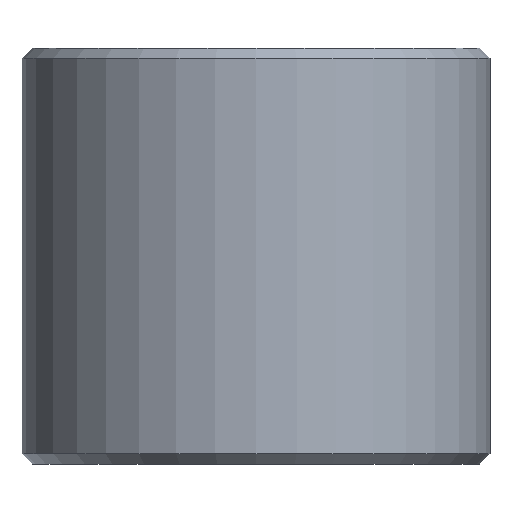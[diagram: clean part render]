
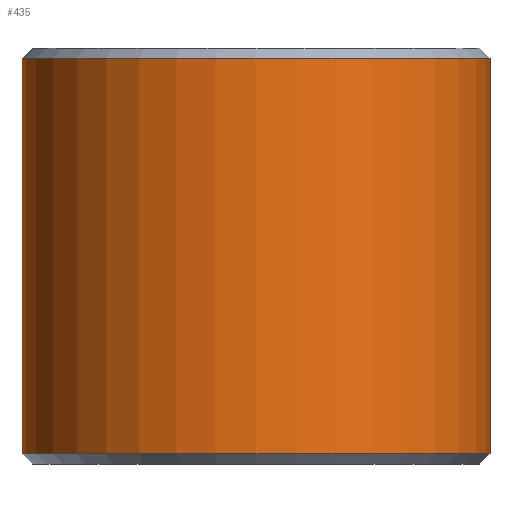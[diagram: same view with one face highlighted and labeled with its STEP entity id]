
A CAD part, front view. The second image highlights one B-rep face of the part: STEP entity #435.
In plain terms, the highlighted cylindrical face has radius 9 mm (diameter 18 mm), a partial arc.
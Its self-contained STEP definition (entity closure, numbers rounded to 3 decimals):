
#23 = DIRECTION ( 'NONE',  ( 0., 0., -1. ) ) ;
#34 = VECTOR ( 'NONE', #348, 1000. ) ;
#47 = EDGE_LOOP ( 'NONE', ( #182, #55, #110, #235 ) ) ;
#55 = ORIENTED_EDGE ( 'NONE', *, *, #180, .T. ) ;
#62 = DIRECTION ( 'NONE',  ( 0., 0., -1. ) ) ;
#72 = AXIS2_PLACEMENT_3D ( 'NONE', #201, #62, #269 ) ;
#95 = FACE_OUTER_BOUND ( 'NONE', #47, .T. ) ;
#104 = DIRECTION ( 'NONE',  ( 1., 0., 0. ) ) ;
#110 = ORIENTED_EDGE ( 'NONE', *, *, #271, .T. ) ;
#117 = CIRCLE ( 'NONE', #181, 9. ) ;
#127 = VECTOR ( 'NONE', #23, 1000. ) ;
#137 = CARTESIAN_POINT ( 'NONE',  ( 9., 0., 7.6 ) ) ;
#171 = LINE ( 'NONE', #233, #127 ) ;
#172 = CARTESIAN_POINT ( 'NONE',  ( 0., 0., 8. ) ) ;
#180 = EDGE_CURVE ( 'NONE', #410, #430, #336, .T. ) ;
#181 = AXIS2_PLACEMENT_3D ( 'NONE', #265, #368, #104 ) ;
#182 = ORIENTED_EDGE ( 'NONE', *, *, #399, .F. ) ;
#201 = CARTESIAN_POINT ( 'NONE',  ( 0., 0., 7.6 ) ) ;
#231 = CYLINDRICAL_SURFACE ( 'NONE', #365, 9. ) ;
#233 = CARTESIAN_POINT ( 'NONE',  ( -9., 0., 8. ) ) ;
#235 = ORIENTED_EDGE ( 'NONE', *, *, #285, .T. ) ;
#256 = CARTESIAN_POINT ( 'NONE',  ( -9., 0., 7.6 ) ) ;
#265 = CARTESIAN_POINT ( 'NONE',  ( 0., 0., -7.6 ) ) ;
#269 = DIRECTION ( 'NONE',  ( 1., 0., 0. ) ) ;
#271 = EDGE_CURVE ( 'NONE', #430, #449, #171, .T. ) ;
#285 = EDGE_CURVE ( 'NONE', #449, #385, #117, .T. ) ;
#300 = CARTESIAN_POINT ( 'NONE',  ( 9., 0., -7.6 ) ) ;
#336 = CIRCLE ( 'NONE', #72, 9. ) ;
#338 = LINE ( 'NONE', #407, #34 ) ;
#343 = DIRECTION ( 'NONE',  ( -1., 0., 0. ) ) ;
#348 = DIRECTION ( 'NONE',  ( 0., 0., -1. ) ) ;
#365 = AXIS2_PLACEMENT_3D ( 'NONE', #172, #438, #343 ) ;
#368 = DIRECTION ( 'NONE',  ( 0., 0., 1. ) ) ;
#385 = VERTEX_POINT ( 'NONE', #300 ) ;
#397 = CARTESIAN_POINT ( 'NONE',  ( -9., 0., -7.6 ) ) ;
#399 = EDGE_CURVE ( 'NONE', #410, #385, #338, .T. ) ;
#407 = CARTESIAN_POINT ( 'NONE',  ( 9., 0., 8. ) ) ;
#410 = VERTEX_POINT ( 'NONE', #137 ) ;
#430 = VERTEX_POINT ( 'NONE', #256 ) ;
#435 = ADVANCED_FACE ( 'NONE', ( #95 ), #231, .T. ) ;
#438 = DIRECTION ( 'NONE',  ( 0., 0., -1. ) ) ;
#449 = VERTEX_POINT ( 'NONE', #397 ) ;
